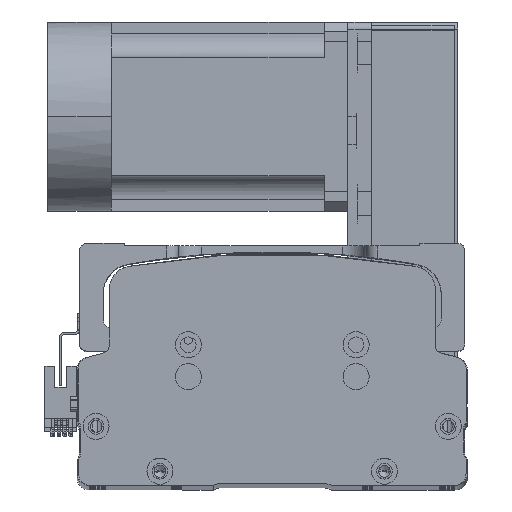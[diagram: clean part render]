
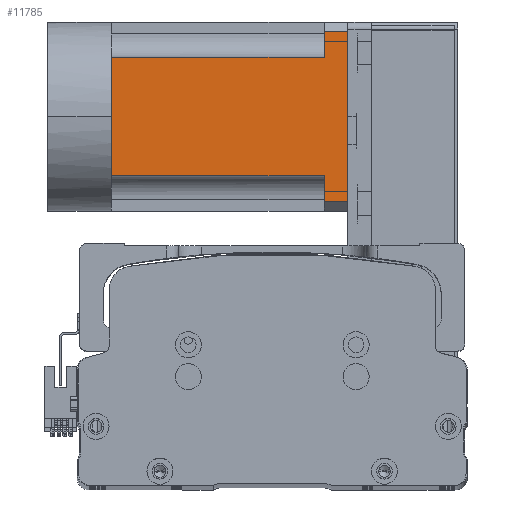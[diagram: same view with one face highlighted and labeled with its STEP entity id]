
A CAD part, top view. The second image highlights one B-rep face of the part: STEP entity #11785.
In plain terms, the highlighted planar face has unit normal (0, 0, 1) as drawn and (0, 0, -1) by its records, which use the part's own axes.
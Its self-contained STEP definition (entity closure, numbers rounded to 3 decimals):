
#841 = FACE_OUTER_BOUND ( 'NONE', #38641, .T. ) ;
#877 = LINE ( 'NONE', #14042, #40542 ) ;
#2115 = CARTESIAN_POINT ( 'NONE',  ( -40., 90., -40. ) ) ;
#2124 = LINE ( 'NONE', #47183, #27012 ) ;
#3578 = LINE ( 'NONE', #7430, #54950 ) ;
#3713 = DIRECTION ( 'NONE',  ( -1., 0., 0. ) ) ;
#4570 = CARTESIAN_POINT ( 'NONE',  ( -36., 90., -40. ) ) ;
#5946 = CARTESIAN_POINT ( 'NONE',  ( 25., 90., -40. ) ) ;
#6165 = ORIENTED_EDGE ( 'NONE', *, *, #53652, .T. ) ;
#6173 = DIRECTION ( 'NONE',  ( -1., 0., 0. ) ) ;
#6328 = ORIENTED_EDGE ( 'NONE', *, *, #63050, .T. ) ;
#7430 = CARTESIAN_POINT ( 'NONE',  ( -25., -27., -40. ) ) ;
#8951 = EDGE_CURVE ( 'NONE', #62934, #43885, #3578, .T. ) ;
#9840 = CARTESIAN_POINT ( 'NONE',  ( 36., 100., -40. ) ) ;
#11134 = VECTOR ( 'NONE', #3713, 1000. ) ;
#11785 = ADVANCED_FACE ( 'NONE', ( #841 ), #56002, .T. ) ;
#12100 = DIRECTION ( 'NONE',  ( -1., 0., 0. ) ) ;
#14042 = CARTESIAN_POINT ( 'NONE',  ( -40., 100., -40. ) ) ;
#14544 = ORIENTED_EDGE ( 'NONE', *, *, #8951, .T. ) ;
#14772 = CARTESIAN_POINT ( 'NONE',  ( 0., 0., -40. ) ) ;
#15246 = LINE ( 'NONE', #41447, #20702 ) ;
#16391 = DIRECTION ( 'NONE',  ( -1., 0., 0. ) ) ;
#16691 = DIRECTION ( 'NONE',  ( 0., -1., 0. ) ) ;
#18485 = ORIENTED_EDGE ( 'NONE', *, *, #19149, .T. ) ;
#19149 = EDGE_CURVE ( 'NONE', #46816, #24814, #2124, .T. ) ;
#20662 = ORIENTED_EDGE ( 'NONE', *, *, #21876, .F. ) ;
#20702 = VECTOR ( 'NONE', #16691, 1000. ) ;
#20835 = AXIS2_PLACEMENT_3D ( 'NONE', #36182, #46190, #16391 ) ;
#21268 = CARTESIAN_POINT ( 'NONE',  ( -25., 0., -40. ) ) ;
#21876 = EDGE_CURVE ( 'NONE', #46816, #26063, #877, .T. ) ;
#22129 = CARTESIAN_POINT ( 'NONE',  ( -36., -27., -40. ) ) ;
#22265 = CARTESIAN_POINT ( 'NONE',  ( -25., 90., -40. ) ) ;
#24050 = CARTESIAN_POINT ( 'NONE',  ( -40., 0., -40. ) ) ;
#24814 = VERTEX_POINT ( 'NONE', #36964 ) ;
#24838 = LINE ( 'NONE', #24050, #49766 ) ;
#26063 = VERTEX_POINT ( 'NONE', #28612 ) ;
#27012 = VECTOR ( 'NONE', #42145, 1000. ) ;
#28612 = CARTESIAN_POINT ( 'NONE',  ( -36., 100., -40. ) ) ;
#29040 = CARTESIAN_POINT ( 'NONE',  ( 25., 0., -40. ) ) ;
#31502 = ORIENTED_EDGE ( 'NONE', *, *, #34783, .T. ) ;
#33501 = CARTESIAN_POINT ( 'NONE',  ( -40., 90., -40. ) ) ;
#33786 = LINE ( 'NONE', #40910, #58711 ) ;
#34783 = EDGE_CURVE ( 'NONE', #59396, #62934, #24838, .T. ) ;
#35343 = VECTOR ( 'NONE', #12100, 1000. ) ;
#36182 = CARTESIAN_POINT ( 'NONE',  ( -40., -27., -40. ) ) ;
#36964 = CARTESIAN_POINT ( 'NONE',  ( 36., 90., -40. ) ) ;
#37158 = DIRECTION ( 'NONE',  ( 0., 1., 0. ) ) ;
#37938 = VERTEX_POINT ( 'NONE', #29040 ) ;
#38641 = EDGE_LOOP ( 'NONE', ( #20662, #18485, #6328, #6165, #59662, #31502, #14544, #56659, #61105 ) ) ;
#40542 = VECTOR ( 'NONE', #63808, 1000. ) ;
#40910 = CARTESIAN_POINT ( 'NONE',  ( -40., 0., -40. ) ) ;
#41447 = CARTESIAN_POINT ( 'NONE',  ( 25., -27., -40. ) ) ;
#42145 = DIRECTION ( 'NONE',  ( 0., -1., 0. ) ) ;
#42393 = VERTEX_POINT ( 'NONE', #4570 ) ;
#43885 = VERTEX_POINT ( 'NONE', #22265 ) ;
#44215 = EDGE_CURVE ( 'NONE', #37938, #59396, #33786, .T. ) ;
#46190 = DIRECTION ( 'NONE',  ( 0., 0., -1. ) ) ;
#46816 = VERTEX_POINT ( 'NONE', #9840 ) ;
#46927 = DIRECTION ( 'NONE',  ( 0., 1., 0. ) ) ;
#47183 = CARTESIAN_POINT ( 'NONE',  ( 36., -27., -40. ) ) ;
#49766 = VECTOR ( 'NONE', #58910, 1000. ) ;
#50856 = LINE ( 'NONE', #33501, #11134 ) ;
#52216 = EDGE_CURVE ( 'NONE', #42393, #26063, #63553, .T. ) ;
#53217 = VERTEX_POINT ( 'NONE', #5946 ) ;
#53652 = EDGE_CURVE ( 'NONE', #53217, #37938, #15246, .T. ) ;
#54950 = VECTOR ( 'NONE', #37158, 1000. ) ;
#56002 = PLANE ( 'NONE',  #20835 ) ;
#56659 = ORIENTED_EDGE ( 'NONE', *, *, #64074, .T. ) ;
#58711 = VECTOR ( 'NONE', #6173, 1000. ) ;
#58910 = DIRECTION ( 'NONE',  ( -1., 0., 0. ) ) ;
#59396 = VERTEX_POINT ( 'NONE', #14772 ) ;
#59662 = ORIENTED_EDGE ( 'NONE', *, *, #44215, .T. ) ;
#61105 = ORIENTED_EDGE ( 'NONE', *, *, #52216, .T. ) ;
#61778 = LINE ( 'NONE', #2115, #35343 ) ;
#62007 = VECTOR ( 'NONE', #46927, 1000. ) ;
#62934 = VERTEX_POINT ( 'NONE', #21268 ) ;
#63050 = EDGE_CURVE ( 'NONE', #24814, #53217, #61778, .T. ) ;
#63553 = LINE ( 'NONE', #22129, #62007 ) ;
#63808 = DIRECTION ( 'NONE',  ( -1., 0., 0. ) ) ;
#64074 = EDGE_CURVE ( 'NONE', #43885, #42393, #50856, .T. ) ;
